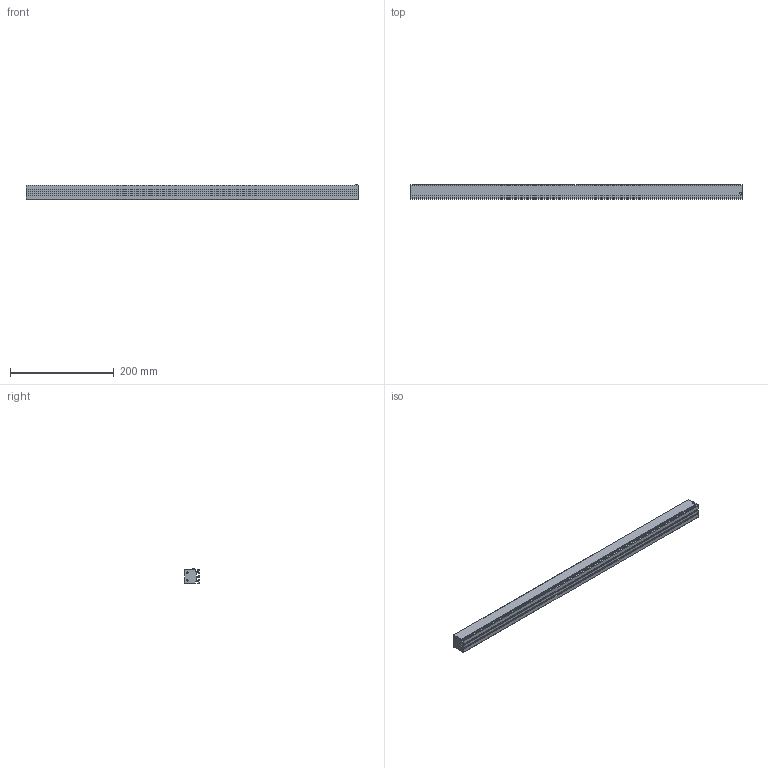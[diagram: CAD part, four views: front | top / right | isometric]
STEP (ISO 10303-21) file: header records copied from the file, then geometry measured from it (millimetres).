
FILE_DESCRIPTION (( 'STEP AP203' ), '1' );
FILE_NAME ('LRD-B4-640.STEP', '2022-08-22T07:01:00', ( 'TNT' ), ( '' ), 'SwSTEP 2.0', 'SolidWorks 2018', '' );
FILE_SCHEMA (( 'CONFIG_CONTROL_DESIGN' ));
Length unit declared in the file: millimetre
Products named in the file (1): LRD-B4-640
Bounding box: 640 x 27.7 x 30.6 mm (x, y, z)
Volume: 419300 mm3; surface area: 116384.8 mm2
Topology: 1 solids, 1 shells, 66 faces, 178 edges, 112 vertices
Faces by surface type: plane 48, cylinder 10, cone 8
Entity records: 2059 total; most frequent: CARTESIAN_POINT 349, ORIENTED_EDGE 340, DIRECTION 324, EDGE_CURVE 170, VECTOR 150, LINE 150, VERTEX_POINT 112, AXIS2_PLACEMENT_3D 87
